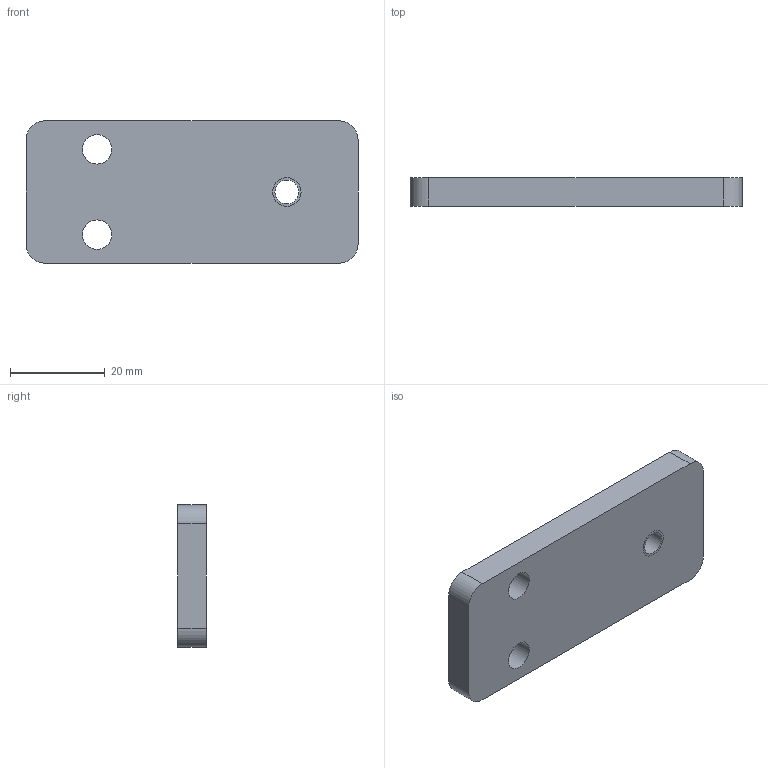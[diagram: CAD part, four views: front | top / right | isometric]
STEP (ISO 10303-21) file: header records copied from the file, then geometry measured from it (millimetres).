
FILE_DESCRIPTION((''),'2;1');
FILE_NAME('FIPA_2','2002-12-27T',('Lipro doo'),('Lipro d.o.o.'),'PRO/ENGINEER BY PARAMETRIC TECHNOLOGY CORPORATION, 2001150','PRO/ENGINEER BY PARAMETRIC TECHNOLOGY CORPORATION, 2001150','');
FILE_SCHEMA(('CONFIG_CONTROL_DESIGN'));
Length unit declared in the file: millimetre
Products named in the file (1): FIPA_2
Bounding box: 70 x 6 x 30 mm (x, y, z)
Volume: 12034.2 mm3; surface area: 5604.8 mm2
Topology: 1 solids, 2 shells, 20 faces, 52 edges, 34 vertices
Faces by surface type: cylinder 12, plane 6, cone 2
Entity records: 682 total; most frequent: DIRECTION 120, CARTESIAN_POINT 107, ORIENTED_EDGE 100, EDGE_CURVE 52, AXIS2_PLACEMENT_3D 47, VERTEX_POINT 34, VECTOR 26, LINE 26
